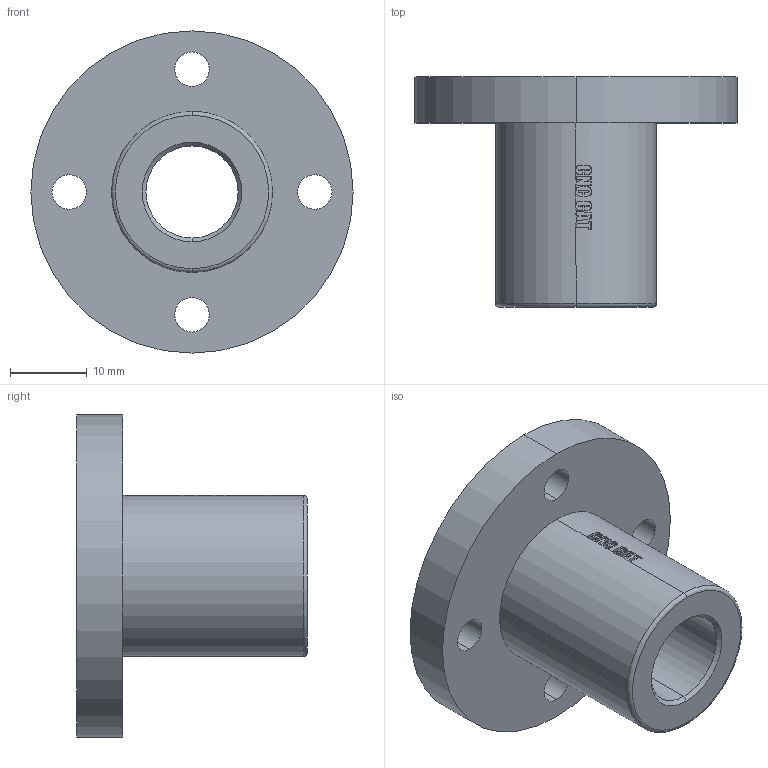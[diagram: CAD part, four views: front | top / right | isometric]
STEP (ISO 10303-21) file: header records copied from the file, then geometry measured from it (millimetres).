
FILE_DESCRIPTION (( 'STEP AP203' ), '1' );
FILE_NAME ('LMF12UU.STEP', '2017-08-10T13:17:51', ( '' ), ( '' ), 'SwSTEP 2.0', 'SolidWorks 2017', '' );
FILE_SCHEMA (( 'CONFIG_CONTROL_DESIGN' ));
Length unit declared in the file: millimetre
Products named in the file (1): LMF12UU
Bounding box: 42 x 30 x 42 mm (x, y, z)
Volume: 12839.1 mm3; surface area: 6252.9 mm2
Topology: 1 solids, 1 shells, 110 faces, 304 edges, 198 vertices
Faces by surface type: plane 48, bspline 32, cylinder 26, cone 2, torus 2
Entity records: 7279 total; most frequent: CARTESIAN_POINT 4643, ORIENTED_EDGE 608, DIRECTION 421, EDGE_CURVE 304, VERTEX_POINT 198, AXIS2_PLACEMENT_3D 165, B_SPLINE_CURVE_WITH_KNOTS 127, EDGE_LOOP 122
